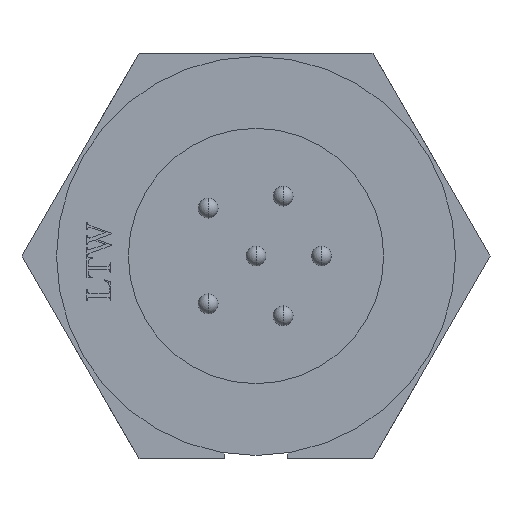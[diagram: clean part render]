
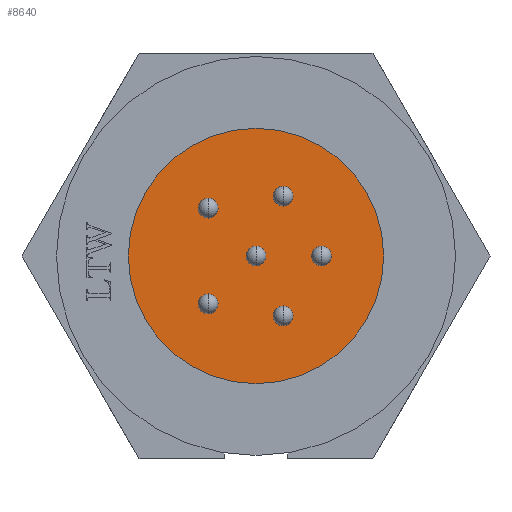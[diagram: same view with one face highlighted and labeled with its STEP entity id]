
A CAD part, left-side view. The second image highlights one B-rep face of the part: STEP entity #8640.
In plain terms, the highlighted planar face has unit normal (-1, 0, 0).
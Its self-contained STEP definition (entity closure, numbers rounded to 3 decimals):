
#1363=CARTESIAN_POINT('',(0.,0.,0.));
#1364=DIRECTION('',(1.,0.,0.));
#1365=DIRECTION('',(0.,-1.,0.));
#1366=AXIS2_PLACEMENT_3D('',#1363,#1364,#1365);
#1368=CARTESIAN_POINT('',(0.,0.,0.));
#1369=DIRECTION('',(1.,0.,0.));
#1370=DIRECTION('',(0.,1.,0.));
#1371=AXIS2_PLACEMENT_3D('',#1368,#1369,#1370);
#1373=CARTESIAN_POINT('',(0.,3.,3.));
#1374=DIRECTION('',(-1.,0.,0.));
#1375=DIRECTION('',(0.,0.,1.));
#1376=AXIS2_PLACEMENT_3D('',#1373,#1374,#1375);
#1378=CARTESIAN_POINT('',(0.,3.,3.));
#1379=DIRECTION('',(-1.,0.,0.));
#1380=DIRECTION('',(0.,0.,-1.));
#1381=AXIS2_PLACEMENT_3D('',#1378,#1379,#1380);
#1383=CARTESIAN_POINT('',(0.,3.,-3.));
#1384=DIRECTION('',(-1.,0.,0.));
#1385=DIRECTION('',(0.,0.,1.));
#1386=AXIS2_PLACEMENT_3D('',#1383,#1384,#1385);
#1388=CARTESIAN_POINT('',(0.,3.,-3.));
#1389=DIRECTION('',(-1.,0.,0.));
#1390=DIRECTION('',(0.,0.,-1.));
#1391=AXIS2_PLACEMENT_3D('',#1388,#1389,#1390);
#1393=CARTESIAN_POINT('',(0.,-1.7,3.75));
#1394=DIRECTION('',(-1.,0.,0.));
#1395=DIRECTION('',(0.,0.,1.));
#1396=AXIS2_PLACEMENT_3D('',#1393,#1394,#1395);
#1398=CARTESIAN_POINT('',(0.,-1.7,3.75));
#1399=DIRECTION('',(-1.,0.,0.));
#1400=DIRECTION('',(0.,0.,-1.));
#1401=AXIS2_PLACEMENT_3D('',#1398,#1399,#1400);
#1403=CARTESIAN_POINT('',(0.,-1.7,-3.75));
#1404=DIRECTION('',(-1.,0.,0.));
#1405=DIRECTION('',(0.,0.,1.));
#1406=AXIS2_PLACEMENT_3D('',#1403,#1404,#1405);
#1408=CARTESIAN_POINT('',(0.,-1.7,-3.75));
#1409=DIRECTION('',(-1.,0.,0.));
#1410=DIRECTION('',(0.,0.,-1.));
#1411=AXIS2_PLACEMENT_3D('',#1408,#1409,#1410);
#1413=CARTESIAN_POINT('',(0.,-4.1,0.));
#1414=DIRECTION('',(-1.,0.,0.));
#1415=DIRECTION('',(0.,0.,1.));
#1416=AXIS2_PLACEMENT_3D('',#1413,#1414,#1415);
#1418=CARTESIAN_POINT('',(0.,-4.1,0.));
#1419=DIRECTION('',(-1.,0.,0.));
#1420=DIRECTION('',(0.,0.,-1.));
#1421=AXIS2_PLACEMENT_3D('',#1418,#1419,#1420);
#1423=CARTESIAN_POINT('',(0.,0.,0.));
#1424=DIRECTION('',(-1.,0.,0.));
#1425=DIRECTION('',(0.,0.,1.));
#1426=AXIS2_PLACEMENT_3D('',#1423,#1424,#1425);
#1428=CARTESIAN_POINT('',(0.,0.,0.));
#1429=DIRECTION('',(-1.,0.,0.));
#1430=DIRECTION('',(0.,0.,-1.));
#1431=AXIS2_PLACEMENT_3D('',#1428,#1429,#1430);
#7560=CARTESIAN_POINT('',(0.,8.,0.));
#7561=VERTEX_POINT('',#7560);
#7562=CARTESIAN_POINT('',(0.,-8.,0.));
#7563=VERTEX_POINT('',#7562);
#7761=CARTESIAN_POINT('',(0.,3.,3.625));
#7762=CARTESIAN_POINT('',(0.,3.,2.375));
#7763=VERTEX_POINT('',#7761);
#7764=VERTEX_POINT('',#7762);
#7769=CARTESIAN_POINT('',(0.,3.,-2.375));
#7770=CARTESIAN_POINT('',(0.,3.,-3.625));
#7771=VERTEX_POINT('',#7769);
#7772=VERTEX_POINT('',#7770);
#7777=CARTESIAN_POINT('',(0.,-1.7,4.375));
#7778=CARTESIAN_POINT('',(0.,-1.7,3.125));
#7779=VERTEX_POINT('',#7777);
#7780=VERTEX_POINT('',#7778);
#7785=CARTESIAN_POINT('',(0.,-1.7,-3.125));
#7786=CARTESIAN_POINT('',(0.,-1.7,-4.375));
#7787=VERTEX_POINT('',#7785);
#7788=VERTEX_POINT('',#7786);
#7793=CARTESIAN_POINT('',(0.,-4.1,0.625));
#7794=CARTESIAN_POINT('',(0.,-4.1,-0.625));
#7795=VERTEX_POINT('',#7793);
#7796=VERTEX_POINT('',#7794);
#7801=CARTESIAN_POINT('',(0.,0.,0.625));
#7802=CARTESIAN_POINT('',(0.,0.,-0.625));
#7803=VERTEX_POINT('',#7801);
#7804=VERTEX_POINT('',#7802);
#8595=CARTESIAN_POINT('',(0.,0.,0.));
#8596=DIRECTION('',(1.,0.,0.));
#8597=DIRECTION('',(0.,-1.,0.));
#8598=AXIS2_PLACEMENT_3D('',#8595,#8596,#8597);
#8599=PLANE('',#8598);
#8600=ORIENTED_EDGE('',*,*,#8560,.T.);
#8601=ORIENTED_EDGE('',*,*,#8583,.T.);
#8602=EDGE_LOOP('',(#8600,#8601));
#8603=FACE_OUTER_BOUND('',#8602,.F.);
#8605=ORIENTED_EDGE('',*,*,#8604,.T.);
#8607=ORIENTED_EDGE('',*,*,#8606,.T.);
#8608=EDGE_LOOP('',(#8605,#8607));
#8609=FACE_BOUND('',#8608,.F.);
#8611=ORIENTED_EDGE('',*,*,#8610,.T.);
#8613=ORIENTED_EDGE('',*,*,#8612,.T.);
#8614=EDGE_LOOP('',(#8611,#8613));
#8615=FACE_BOUND('',#8614,.F.);
#8617=ORIENTED_EDGE('',*,*,#8616,.T.);
#8619=ORIENTED_EDGE('',*,*,#8618,.T.);
#8620=EDGE_LOOP('',(#8617,#8619));
#8621=FACE_BOUND('',#8620,.F.);
#8623=ORIENTED_EDGE('',*,*,#8622,.T.);
#8625=ORIENTED_EDGE('',*,*,#8624,.T.);
#8626=EDGE_LOOP('',(#8623,#8625));
#8627=FACE_BOUND('',#8626,.F.);
#8629=ORIENTED_EDGE('',*,*,#8628,.T.);
#8631=ORIENTED_EDGE('',*,*,#8630,.T.);
#8632=EDGE_LOOP('',(#8629,#8631));
#8633=FACE_BOUND('',#8632,.F.);
#8635=ORIENTED_EDGE('',*,*,#8634,.T.);
#8637=ORIENTED_EDGE('',*,*,#8636,.T.);
#8638=EDGE_LOOP('',(#8635,#8637));
#8639=FACE_BOUND('',#8638,.F.);
#8640=ADVANCED_FACE('',(#8603,#8609,#8615,#8621,#8627,#8633,#8639),#8599,.F.);
#1367=CIRCLE('',#1366,8.);
#1372=CIRCLE('',#1371,8.);
#1377=CIRCLE('',#1376,0.625);
#1382=CIRCLE('',#1381,0.625);
#1387=CIRCLE('',#1386,0.625);
#1392=CIRCLE('',#1391,0.625);
#1397=CIRCLE('',#1396,0.625);
#1402=CIRCLE('',#1401,0.625);
#1407=CIRCLE('',#1406,0.625);
#1412=CIRCLE('',#1411,0.625);
#1417=CIRCLE('',#1416,0.625);
#1422=CIRCLE('',#1421,0.625);
#1427=CIRCLE('',#1426,0.625);
#1432=CIRCLE('',#1431,0.625);
#8560=EDGE_CURVE('',#7563,#7561,#1367,.T.);
#8583=EDGE_CURVE('',#7561,#7563,#1372,.T.);
#8604=EDGE_CURVE('',#7763,#7764,#1377,.T.);
#8606=EDGE_CURVE('',#7764,#7763,#1382,.T.);
#8610=EDGE_CURVE('',#7771,#7772,#1387,.T.);
#8612=EDGE_CURVE('',#7772,#7771,#1392,.T.);
#8616=EDGE_CURVE('',#7779,#7780,#1397,.T.);
#8618=EDGE_CURVE('',#7780,#7779,#1402,.T.);
#8622=EDGE_CURVE('',#7787,#7788,#1407,.T.);
#8624=EDGE_CURVE('',#7788,#7787,#1412,.T.);
#8628=EDGE_CURVE('',#7795,#7796,#1417,.T.);
#8630=EDGE_CURVE('',#7796,#7795,#1422,.T.);
#8634=EDGE_CURVE('',#7803,#7804,#1427,.T.);
#8636=EDGE_CURVE('',#7804,#7803,#1432,.T.);
